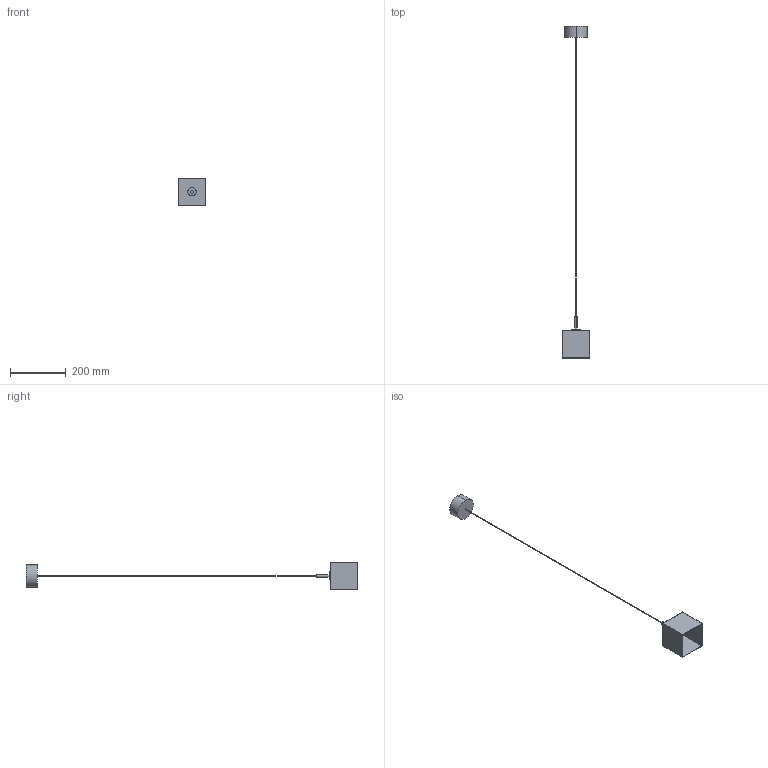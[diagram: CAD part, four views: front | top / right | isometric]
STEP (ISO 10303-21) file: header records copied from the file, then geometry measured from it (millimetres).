
FILE_DESCRIPTION (( 'STEP AP214' ), '1' );
FILE_NAME ('CUBIC_C1344.STEP', '2025-09-04T15:55:49', ( '' ), ( '' ), 'SwSTEP 2.0', 'SolidWorks 2018', '' );
FILE_SCHEMA (( 'AUTOMOTIVE_DESIGN' ));
Length unit declared in the file: millimetre
Products named in the file (1): CUBIC_C1344
Bounding box: 100 x 1190 x 100 mm (x, y, z)
Volume: 309517.8 mm3; surface area: 130287.3 mm2
Topology: 5 solids, 5 shells, 29 faces, 54 edges, 36 vertices
Faces by surface type: plane 19, cylinder 10
Entity records: 802 total; most frequent: DIRECTION 134, CARTESIAN_POINT 120, ORIENTED_EDGE 108, EDGE_CURVE 54, AXIS2_PLACEMENT_3D 50, VERTEX_POINT 36, LINE 34, VECTOR 34
